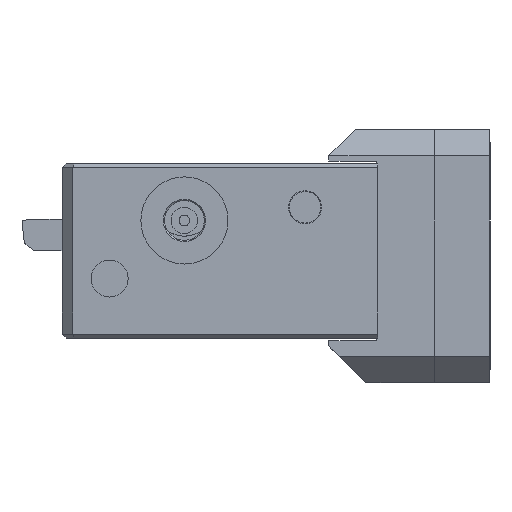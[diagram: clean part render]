
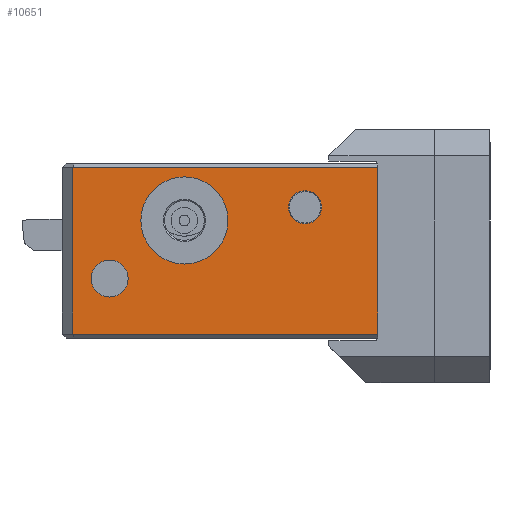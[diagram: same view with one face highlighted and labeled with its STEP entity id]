
A CAD part, left-side view. The second image highlights one B-rep face of the part: STEP entity #10651.
In plain terms, the highlighted planar face has unit normal (-1, 0, 0).
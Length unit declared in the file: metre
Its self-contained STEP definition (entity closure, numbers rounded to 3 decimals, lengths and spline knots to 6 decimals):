
#41 = FACE_BOUND ( 'NONE', #8334, .T. ) ;
#222 = FACE_BOUND ( 'NONE', #7219, .T. ) ;
#235 = FACE_BOUND ( 'NONE', #11606, .T. ) ;
#461 = FACE_OUTER_BOUND ( 'NONE', #7023, .T. ) ;
#813 = CARTESIAN_POINT ( 'NONE',  ( -0.079, 0.0425, -0.0295 ) ) ;
#890 = VECTOR ( 'NONE', #1237, 1. ) ;
#1018 = CARTESIAN_POINT ( 'NONE',  ( -0.079, 0.0425, -0.0295 ) ) ;
#1153 = VERTEX_POINT ( 'NONE', #813 ) ;
#1237 = DIRECTION ( 'NONE',  ( 0., -1., 0. ) ) ;
#1411 = LINE ( 'NONE', #1018, #890 ) ;
#1978 = VERTEX_POINT ( 'NONE', #3612 ) ;
#3295 = AXIS2_PLACEMENT_3D ( 'NONE', #20128, #20071, #20003 ) ;
#3612 = CARTESIAN_POINT ( 'NONE',  ( -0.079, 0.158, 0.0335 ) ) ;
#4003 = CIRCLE ( 'NONE', #6796, 0.005 ) ;
#4449 = DIRECTION ( 'NONE',  ( 0., -1., 0. ) ) ;
#4620 = VECTOR ( 'NONE', #6142, 1. ) ;
#4714 = LINE ( 'NONE', #6186, #4620 ) ;
#4831 = EDGE_CURVE ( 'NONE', #18045, #1153, #4714, .T. ) ;
#5375 = EDGE_CURVE ( 'NONE', #1978, #17417, #10908, .T. ) ;
#5519 = VERTEX_POINT ( 'NONE', #10898 ) ;
#6046 = EDGE_CURVE ( 'NONE', #8913, #8913, #17560, .T. ) ;
#6108 = VERTEX_POINT ( 'NONE', #10755 ) ;
#6142 = DIRECTION ( 'NONE',  ( 0., 0., -1. ) ) ;
#6186 = CARTESIAN_POINT ( 'NONE',  ( -0.079, 0.0425, 0.035 ) ) ;
#6682 = ORIENTED_EDGE ( 'NONE', *, *, #8468, .T. ) ;
#6796 = AXIS2_PLACEMENT_3D ( 'NONE', #17180, #17253, #17276 ) ;
#7023 = EDGE_LOOP ( 'NONE', ( #16495, #6682, #19176, #8060 ) ) ;
#7219 = EDGE_LOOP ( 'NONE', ( #15843 ) ) ;
#8060 = ORIENTED_EDGE ( 'NONE', *, *, #13614, .T. ) ;
#8334 = EDGE_LOOP ( 'NONE', ( #12607 ) ) ;
#8468 = EDGE_CURVE ( 'NONE', #18045, #1978, #13551, .T. ) ;
#8913 = VERTEX_POINT ( 'NONE', #12692 ) ;
#9059 = DIRECTION ( 'NONE',  ( 0., 0., -1. ) ) ;
#9263 = CARTESIAN_POINT ( 'NONE',  ( -0.079, 0.158, 0.035 ) ) ;
#10156 = DIRECTION ( 'NONE',  ( 0., 1., 0. ) ) ;
#10171 = DIRECTION ( 'NONE',  ( 1., 0., 0. ) ) ;
#10254 = CIRCLE ( 'NONE', #3295, 0.0165 ) ;
#10304 = CARTESIAN_POINT ( 'NONE',  ( -0.079, 0.0425, 0.035 ) ) ;
#10390 = PLANE ( 'NONE',  #16242 ) ;
#10586 = VECTOR ( 'NONE', #9059, 1. ) ;
#10651 = ADVANCED_FACE ( 'NONE', ( #235, #41, #222, #461 ), #10390, .F. ) ;
#10755 = CARTESIAN_POINT ( 'NONE',  ( -0.079, 0.1157, 0.03 ) ) ;
#10763 = CARTESIAN_POINT ( 'NONE',  ( -0.079, 0.0425, 0.0335 ) ) ;
#10836 = DIRECTION ( 'NONE',  ( 0., 1., 0. ) ) ;
#10898 = CARTESIAN_POINT ( 'NONE',  ( -0.079, 0.149, -0.0085 ) ) ;
#10908 = LINE ( 'NONE', #9263, #10586 ) ;
#11606 = EDGE_LOOP ( 'NONE', ( #15732 ) ) ;
#12607 = ORIENTED_EDGE ( 'NONE', *, *, #6046, .F. ) ;
#12692 = CARTESIAN_POINT ( 'NONE',  ( -0.079, 0.06375, 0.0185 ) ) ;
#13327 = CARTESIAN_POINT ( 'NONE',  ( -0.079, 0.158, -0.0295 ) ) ;
#13359 = VECTOR ( 'NONE', #10836, 1. ) ;
#13551 = LINE ( 'NONE', #10763, #13359 ) ;
#13614 = EDGE_CURVE ( 'NONE', #17417, #1153, #1411, .T. ) ;
#14112 = DIRECTION ( 'NONE',  ( -1., 0., 0. ) ) ;
#14481 = AXIS2_PLACEMENT_3D ( 'NONE', #15736, #14112, #4449 ) ;
#15732 = ORIENTED_EDGE ( 'NONE', *, *, #16700, .T. ) ;
#15736 = CARTESIAN_POINT ( 'NONE',  ( -0.079, 0.07, 0.0185 ) ) ;
#15843 = ORIENTED_EDGE ( 'NONE', *, *, #18086, .F. ) ;
#16242 = AXIS2_PLACEMENT_3D ( 'NONE', #10304, #10171, #10156 ) ;
#16420 = CARTESIAN_POINT ( 'NONE',  ( -0.079, 0.0425, 0.0335 ) ) ;
#16495 = ORIENTED_EDGE ( 'NONE', *, *, #4831, .F. ) ;
#16700 = EDGE_CURVE ( 'NONE', #5519, #5519, #4003, .T. ) ;
#17180 = CARTESIAN_POINT ( 'NONE',  ( -0.079, 0.144, -0.0085 ) ) ;
#17253 = DIRECTION ( 'NONE',  ( 1., 0., 0. ) ) ;
#17276 = DIRECTION ( 'NONE',  ( 0., 1., 0. ) ) ;
#17417 = VERTEX_POINT ( 'NONE', #13327 ) ;
#17560 = CIRCLE ( 'NONE', #14481, 0.00625 ) ;
#18045 = VERTEX_POINT ( 'NONE', #16420 ) ;
#18086 = EDGE_CURVE ( 'NONE', #6108, #6108, #10254, .T. ) ;
#19176 = ORIENTED_EDGE ( 'NONE', *, *, #5375, .T. ) ;
#20003 = DIRECTION ( 'NONE',  ( 0., 0., 1. ) ) ;
#20071 = DIRECTION ( 'NONE',  ( -1., 0., 0. ) ) ;
#20128 = CARTESIAN_POINT ( 'NONE',  ( -0.079, 0.1157, 0.0135 ) ) ;
